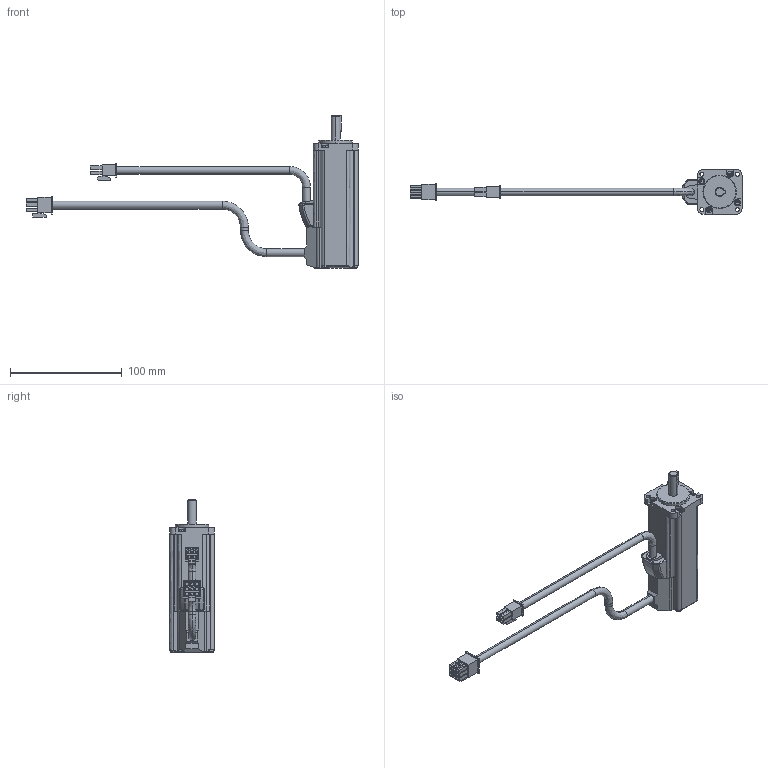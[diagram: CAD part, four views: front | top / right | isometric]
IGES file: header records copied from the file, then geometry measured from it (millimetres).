
Start section:  PTC IGES file: RSMZ-01BA3xS.igs
Global section: file name: RSMZ-01BA3xS.igs; native system: Pro/ENGINEER by Parametric Technology Corporation; preprocessor: 2004440; author: Administrator; organization: Unknown; date: 070904.190739; units: millimetre
Bounding box: 297.7 x 40 x 137.1 mm (x, y, z)
Volume: 187786.1 mm3; surface area: 37235.7 mm2
Topology: 1 solids, 1 shells, 463 faces, 1171 edges, 759 vertices
Faces by surface type: bspline 333, revolution 130
